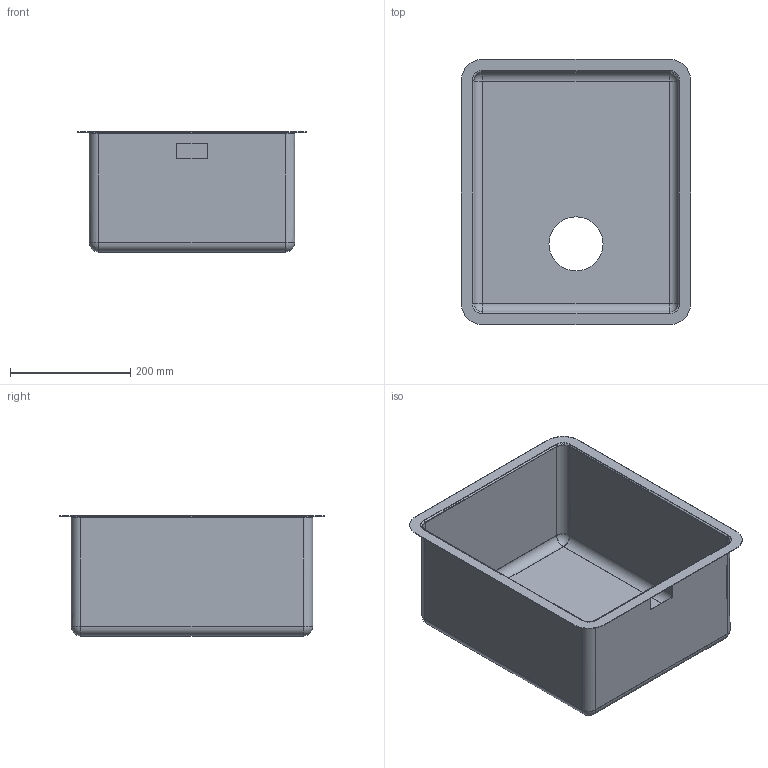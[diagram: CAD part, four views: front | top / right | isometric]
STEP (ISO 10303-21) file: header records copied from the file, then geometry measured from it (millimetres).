
FILE_DESCRIPTION(('CATIA V5 STEP Exchange'),'2;1');
FILE_NAME('M:\DISEGNI\LAVELLI\Mira\Assiemi\VSTR34DKX\VSTR34DKX.stp','2018-12-19T10:58:31+00:00',('none'),('none'),'CATIA Version 5-6 Release 2014','CATIA V5 STEP AP203','none');
FILE_SCHEMA(('CONFIG_CONTROL_DESIGN'));
Length unit declared in the file: millimetre
Products named in the file (1): VSTR34-2
Bounding box: 382 x 442 x 200 mm (x, y, z)
Volume: 438773.7 mm3; surface area: 879572.6 mm2
Topology: 1 solids, 1 shells, 66 faces, 146 edges, 84 vertices
Faces by surface type: cylinder 22, plane 20, bspline 16, sphere 8
Entity records: 3883 total; most frequent: CARTESIAN_POINT 2569, ORIENTED_EDGE 292, DIRECTION 186, EDGE_CURVE 146, VERTEX_POINT 84, AXIS2_PLACEMENT_3D 72, EDGE_LOOP 72, VECTOR 66
